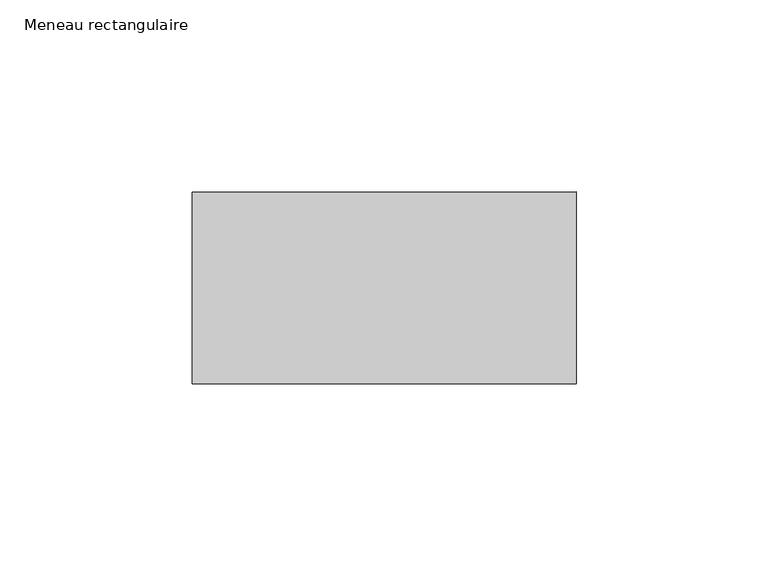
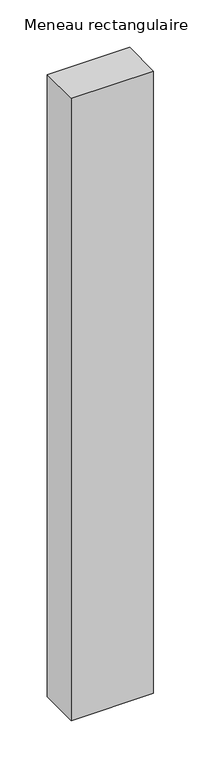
"""IFC4 building model written with IfcOpenShell, lengths in millimetres: member geometry, Meneau rectangulaire : 10x5cm aluminium laqué gris."""

from ifc_helpers import new_model, si_unit, frame, origin, place, context, project, spatial, polyline, outline, extrude, source, transform, mapped, element, save


def meneau_rectangulaire_8479b786(model_context):
    return source(origin(), model_context, "Body", "SweptSolid", [
        extrude(outline(polyline([(0.0, 25.0), (0.0, -25.0), (-100.0, -25.0), (-100.0, 25.0), (0.0, 25.0)])), frame((0.0, 0.0, -800.0), z_axis=(0.0, 0.0, 1.0), x_axis=(1.0, 0.0, 0.0)), (0.0, 0.0, 1.0), 800.0),
    ])


if __name__ == "__main__":
    model = new_model("IFC4")
    model_context = context("Model", 3, world=origin())
    ifc_project = project(units=[si_unit("LENGTHUNIT", "METRE", prefix="MILLI")], contexts=[model_context])
    site = spatial("IfcSite", under=ifc_project)
    building = spatial("IfcBuilding", under=site)
    placement = place(None, origin())
    meneau_rectangulaire_shape = meneau_rectangulaire_8479b786(model_context)
    element("IfcMember", 1, ObjectType="Meneau rectangulaire : 10x5cm aluminium laqué gris", at=placement, inside=building, context=model_context, shape_type="MappedRepresentation", body=[
        mapped(meneau_rectangulaire_shape, transform((0.0, 0.0, 0.0), x_axis=(1.0, 0.0, 0.0), y_axis=(0.0, 1.0, 0.0), z_axis=(0.0, 0.0, 1.0))),
    ])
    save(model, "model.ifc")
